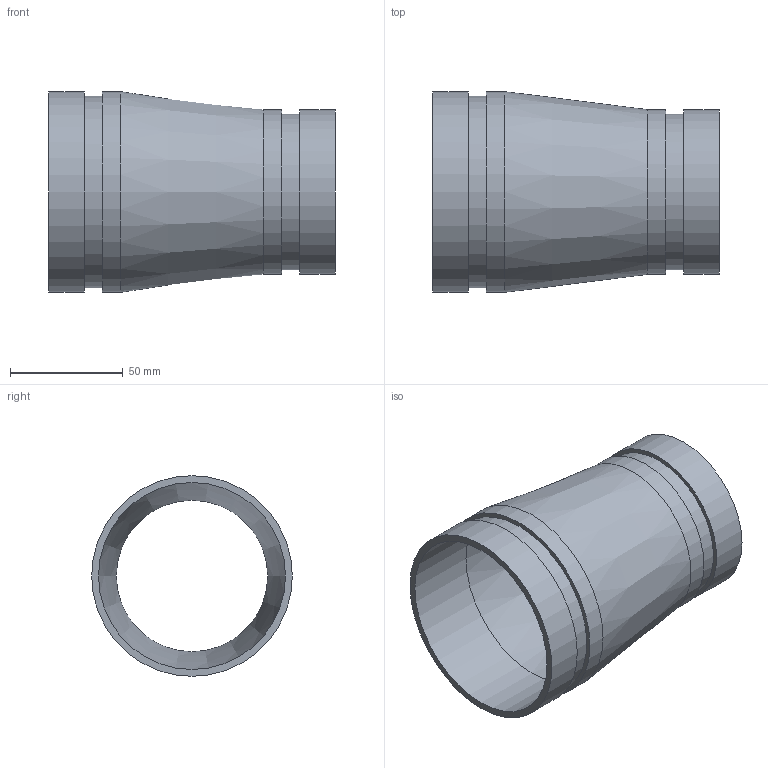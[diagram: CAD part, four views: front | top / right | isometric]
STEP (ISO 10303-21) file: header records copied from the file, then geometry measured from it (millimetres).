
FILE_DESCRIPTION(/* description */ ('VIC REDUCER CONCENTRIC No 450-SS','CAx-IF Rec.Pracs.---Representation and Presentation of Product Manufacturing Information (PMI)---4.0---2014-10-13'),/* implementation_level */ '2;1');
FILE_NAME(/* name */ 'C:\Users\kkamble\AppData\Roaming\Autodesk\ApplicationPlugins\Back Up\Victaulic_SS-OGS_Reducer Concentric_Sched 10S_No 450 SS (OGS)\Victaulic_SS-OGS_Reducer Concentric_Sched 10S_No 450 SS (OGS)_03.0x02.5 (80x65).stp',/* time_stamp */ '2020-09-08T12:32:49+05:00',/* author */ ('CORINNE GRAY'),/* organization */ ('Victaulic'),/* preprocessor_version */ 'ST-DEVELOPER v17.2',/* originating_system */ 'Autodesk Inventor 2019',/* authorisation */ '');
FILE_SCHEMA (('AP242_MANAGED_MODEL_BASED_3D_ENGINEERING_MIM_LF { 1 0 10303 442 1 1 4 }'));
Length unit declared in the file: inch
Products named in the file (1): 450 SS-03.0x02.5
Bounding box: 127 x 88.9 x 88.9 mm (x, y, z)
Volume: 86075.4 mm3; surface area: 65682.8 mm2
Topology: 1 solids, 1 shells, 16 faces, 42 edges, 32 vertices
Faces by surface type: cylinder 8, plane 6, cone 2
Full cylindrical faces by diameter (mm): 67.056 x1, 69.088 x1, 73.025 x2, 82.804 x1, 84.938 x1, 88.9 x2
Entity records: 686 total; most frequent: DIRECTION 134, CARTESIAN_POINT 108, ORIENTED_EDGE 84, AXIS2_PLACEMENT_3D 62, EDGE_CURVE 42, CIRCLE 32, VERTEX_POINT 32, EDGE_LOOP 22
